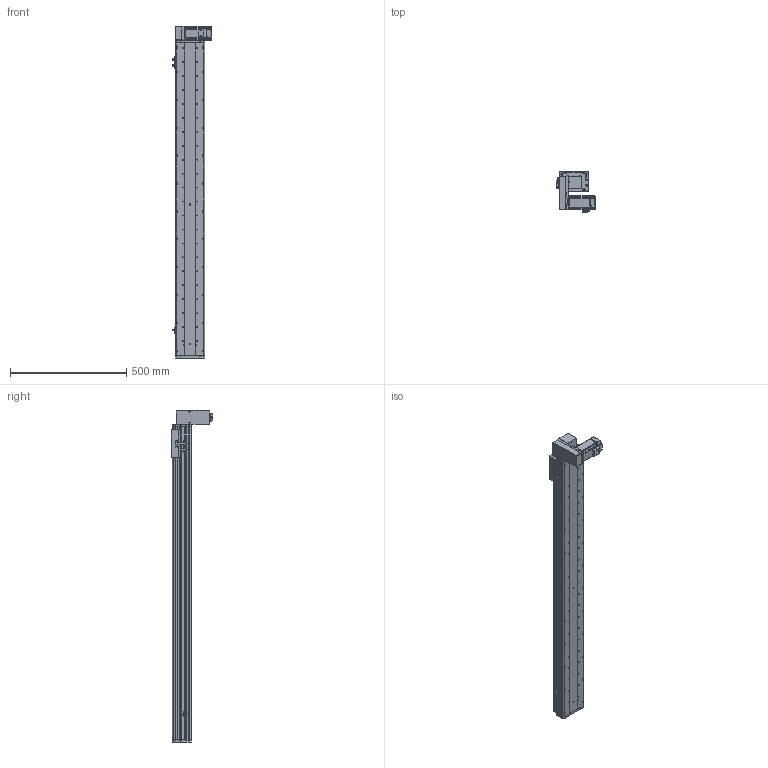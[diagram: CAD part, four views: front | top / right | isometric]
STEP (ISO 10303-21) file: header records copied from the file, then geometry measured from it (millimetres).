
FILE_DESCRIPTION (( 'STEP AP214' ), '1' );
FILE_NAME ('KSD125B-S1150-MRD-CM.STEP', '2017-10-21T06:29:53', ( '微软用户' ), ( '微软中国' ), 'SwSTEP 2.0', 'SolidWorks 2014', '' );
FILE_SCHEMA (( 'AUTOMOTIVE_DESIGN' ));
Length unit declared in the file: millimetre
Products named in the file (17): HTPA30S3M150_A_H6_a萇儂蚚; 100宽马达安装板连板上下折丝杆同步带; KSD125模组1150行程同步带-防尘盖; 125模组1150行程同步带-底板; MHMD042G1CA_2_03; KSD125模组同步带-防撞垫2; 覜茼え68遵圉猾敕; U倰嫖萇假蚾璃; U倰嫖萇EEㄜSX672; KSD125模组同步带-防撞垫1; 100宽马达安装板同步带右; 前端板-125宽模组同步带; 125模组同步带-尾端板1; KSD125模组同步带-滑动座1; KSD125B-S1150-MRD-CM; 悵誘欶奻狟殏; HTPA30S3M150_A_H6_a佪裝蚚
Assembly tree (20 placements, depth 2):
  KSD125B-S1150-MRD-CM
    KSD125模组同步带-滑动座1
    125模组同步带-尾端板1
    前端板-125宽模组同步带
    100宽马达安装板同步带右
    KSD125模组同步带-防撞垫1
    U倰嫖萇EEㄜSX672  x3
    U倰嫖萇假蚾璃  x3
    覜茼え68遵圉猾敕
    KSD125模组同步带-防撞垫2
    MHMD042G1CA_2_03
    125模组1150行程同步带-底板
    KSD125模组1150行程同步带-防尘盖
    100宽马达安装板连板上下折丝杆同步带
    HTPA30S3M150_A_H6_a萇儂蚚
    HTPA30S3M150_A_H6_a佪裝蚚
    悵誘欶奻狟殏
Bounding box: 168.7 x 179.5 x 1427 mm (x, y, z)
Volume: 4324482 mm3; surface area: 1447792.7 mm2
Topology: 19 solids, 22 shells, 2343 faces, 6793 edges, 4490 vertices
Faces by surface type: cylinder 1484, plane 732, cone 105, bspline 22
Entity records: 83651 total; most frequent: CARTESIAN_POINT 16491, DIRECTION 12998, ORIENTED_EDGE 12106, EDGE_CURVE 6131, AXIS2_PLACEMENT_3D 5037, VERTEX_POINT 4082, VECTOR 2924, LINE 2924
